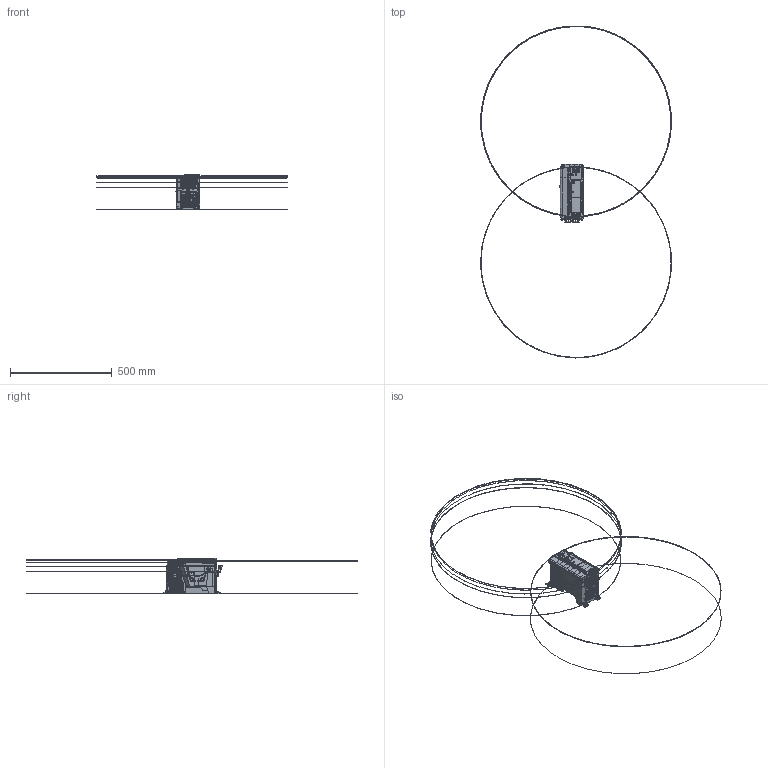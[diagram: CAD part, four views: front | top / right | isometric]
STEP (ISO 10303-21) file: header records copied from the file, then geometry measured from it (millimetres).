
FILE_DESCRIPTION((''),'2;1');
FILE_NAME('M400-SIMPLE_SW0002','2014-02-20T',('owenrh01'),(''),'PRO/ENGINEER BY PARAMETRIC TECHNOLOGY CORPORATION, 2011490','PRO/ENGINEER BY PARAMETRIC TECHNOLOGY CORPORATION, 2011490','');
FILE_SCHEMA(('CONFIG_CONTROL_DESIGN'));
Products named in the file (1): M400-SIMPLE_SW0002
Bounding box: 939.36 x 1632.9 x 174.98 mm (x, y, z)
Surface area: 579894.5 mm2 (no closed solid volume)
Topology: 0 solids, 0 shells, 4022 faces, 27463 edges, 27300 vertices
Faces by surface type: bspline 3832, torus 173, sphere 17
Entity records: 563823 total; most frequent: CARTESIAN_POINT 327827, DIRECTION 33381, TRIMMED_CURVE 30241, VECTOR 27481, LINE 27481, DEFINITIONAL_REPRESENTATION 27120, PCURVE 27120, COMPOSITE_CURVE_SEGMENT 27120
